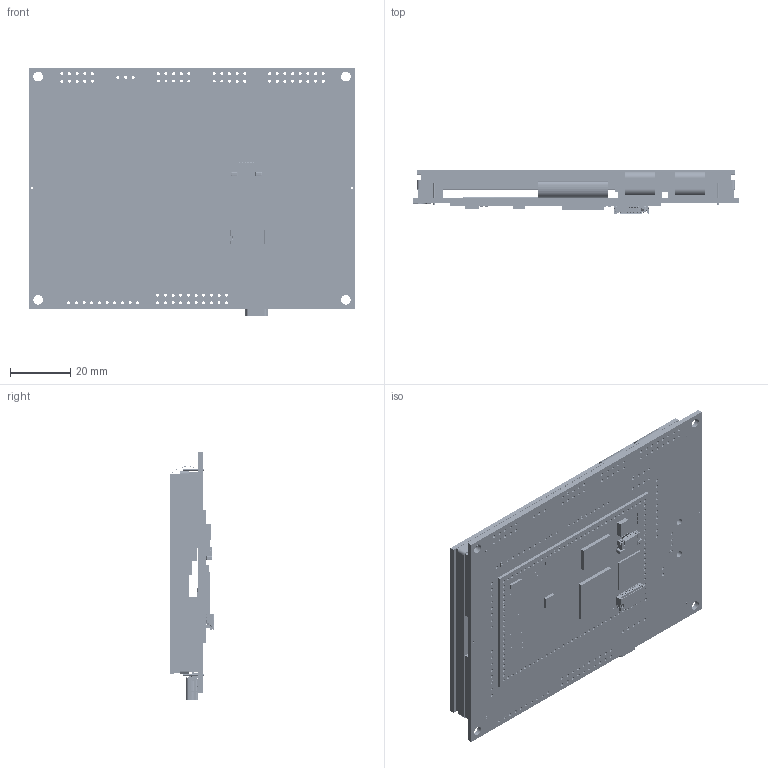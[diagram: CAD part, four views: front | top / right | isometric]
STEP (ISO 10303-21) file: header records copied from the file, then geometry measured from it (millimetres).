
FILE_DESCRIPTION (( 'STEP AP214' ), '1' );
FILE_NAME ('TW480x272C-K619SE4R2MU.STEP', '2015-02-18T10:33:36', ( '' ), ( '' ), 'SwSTEP 2.0', 'SolidWorks 2015', '' );
FILE_SCHEMA (( 'AUTOMOTIVE_DESIGN' ));
Length unit declared in the file: millimetre
Products named in the file (23): micro sd connector; lcd connector; pn28 pcb; MCBK42; MOLEX - 54819-0572 - Mini USB; MPCT Conn 4; MPCT480; TU480x272C-K612A1-m; Micro SD; 40 pin connector; TW480x272C-K619SE4R2MU; pn28
Assembly tree (12 placements, depth 3):
  micro sd connector
  lcd connector
  pn28 pcb
  Micro SD
  MCBK42
Bounding box: 108 x 14.65 x 82.5 mm (x, y, z)
Volume: 50872 mm3; surface area: 58801.4 mm2
Topology: 14 solids, 15 shells, 4950 faces, 12840 edges, 8440 vertices
Faces by surface type: plane 2991, cylinder 1884, bspline 75
Entity records: 181949 total; most frequent: CARTESIAN_POINT 28128, DIRECTION 26162, ORIENTED_EDGE 25479, EDGE_CURVE 12772, LINE 8796, VECTOR 8796, AXIS2_PLACEMENT_3D 8683, VERTEX_POINT 8416
